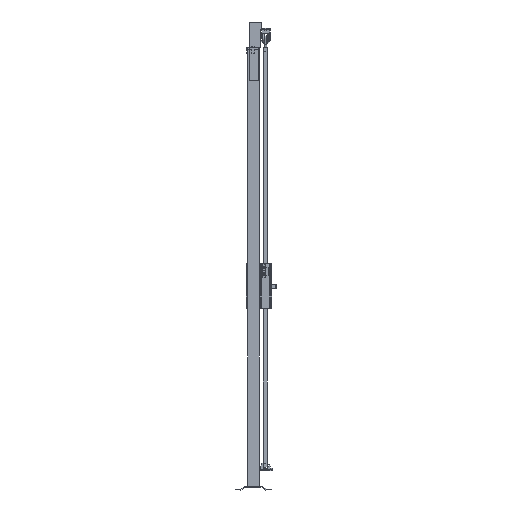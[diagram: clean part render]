
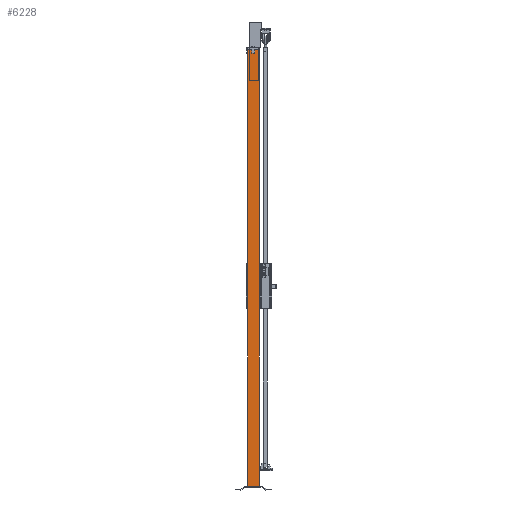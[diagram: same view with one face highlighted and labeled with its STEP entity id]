
A CAD part, left-side view. The second image highlights one B-rep face of the part: STEP entity #6228.
In plain terms, the highlighted planar face has unit normal (-1, 0, 0).
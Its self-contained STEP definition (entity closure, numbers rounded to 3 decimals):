
#523=FACE_OUTER_BOUND('',#972,.T.);
#972=EDGE_LOOP('',(#3824,#3825,#3826,#3827));
#1478=VERTEX_POINT('',#13078);
#1479=VERTEX_POINT('',#13080);
#1482=VERTEX_POINT('',#13087);
#1483=VERTEX_POINT('',#13089);
#2396=EDGE_CURVE('',#1478,#1479,#7218,.T.);
#2400=EDGE_CURVE('',#1482,#1483,#7222,.T.);
#2402=EDGE_CURVE('',#1479,#1482,#7224,.T.);
#2404=EDGE_CURVE('',#1478,#1483,#7226,.T.);
#3824=ORIENTED_EDGE('',*,*,#2404,.T.);
#3825=ORIENTED_EDGE('',*,*,#2400,.F.);
#3826=ORIENTED_EDGE('',*,*,#2402,.F.);
#3827=ORIENTED_EDGE('',*,*,#2396,.F.);
#5822=PLANE('',#9389);
#6228=ADVANCED_FACE('',(#523),#5822,.F.);
#7218=LINE('',#13081,#8393);
#7222=LINE('',#13090,#8397);
#7224=LINE('',#13093,#8399);
#7226=LINE('',#13096,#8401);
#8393=VECTOR('',#10395,1.);
#8397=VECTOR('',#10401,1.);
#8399=VECTOR('',#10405,1.);
#8401=VECTOR('',#10409,1.);
#9389=AXIS2_PLACEMENT_3D('',#13095,#10407,#10408);
#10395=DIRECTION('',(0.,-1.,0.));
#10401=DIRECTION('',(0.,1.,0.));
#10405=DIRECTION('',(0.,0.,-1.));
#10407=DIRECTION('center_axis',(1.,0.,0.));
#10408=DIRECTION('ref_axis',(0.,0.,-1.));
#10409=DIRECTION('',(0.,0.,-1.));
#13078=CARTESIAN_POINT('',(-30.,30.,2320.));
#13080=CARTESIAN_POINT('',(-30.,-30.,2320.));
#13081=CARTESIAN_POINT('',(-30.,0.,2320.));
#13087=CARTESIAN_POINT('',(-30.,-30.,20.));
#13089=CARTESIAN_POINT('',(-30.,30.,20.));
#13090=CARTESIAN_POINT('',(-30.,0.,20.));
#13093=CARTESIAN_POINT('',(-30.,-30.,1170.));
#13095=CARTESIAN_POINT('Origin',(-30.,0.,
1170.));
#13096=CARTESIAN_POINT('',(-30.,30.,1170.));
